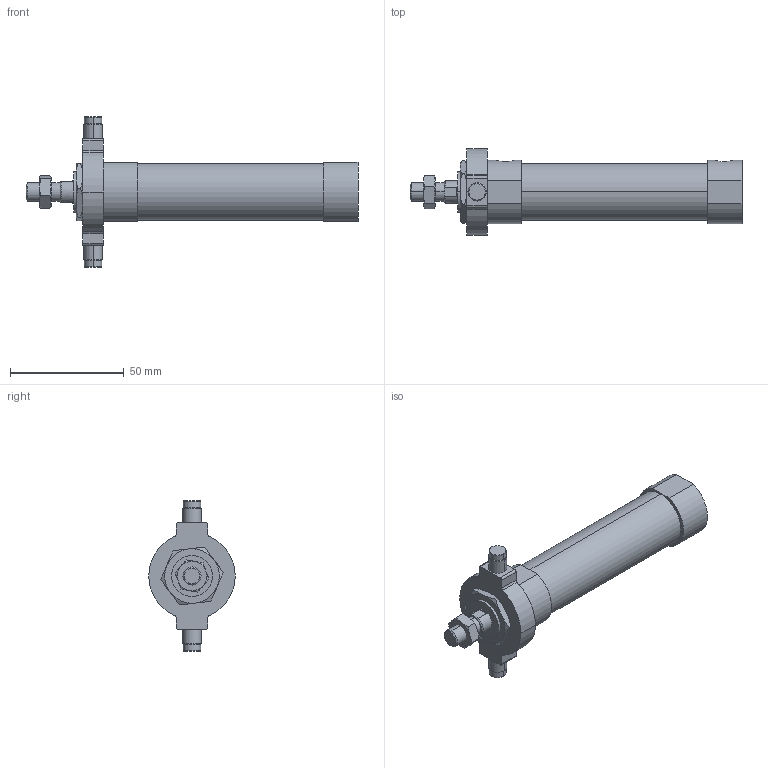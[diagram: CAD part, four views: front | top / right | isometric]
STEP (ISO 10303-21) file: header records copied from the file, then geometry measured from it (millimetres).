
FILE_DESCRIPTION (( 'STEP AP203' ), '1' );
FILE_NAME ('JGND2-20-50-T.STEP', '2016-08-04T02:23:53', ( '' ), ( '' ), 'SwSTEP 2.0', 'SolidWorks 2014', '' );
FILE_SCHEMA (( 'CONFIG_CONTROL_DESIGN' ));
Length unit declared in the file: millimetre
Products named in the file (5): J#2-20-50(P); JGND2-20-50-T; J#2-20-T
Assembly tree (4 placements, depth 2):
  JGND2-20-50-T
    J#2-20-50(P)
    (unnamed)
    (unnamed)
    J#2-20-T
Bounding box: 146 x 38 x 66 mm (x, y, z)
Volume: 72530.3 mm3; surface area: 18200.8 mm2
Topology: 4 solids, 4 shells, 123 faces, 275 edges, 170 vertices
Faces by surface type: plane 44, cylinder 43, torus 24, cone 12
Entity records: 4286 total; most frequent: CARTESIAN_POINT 1031, DIRECTION 597, ORIENTED_EDGE 550, EDGE_CURVE 275, AXIS2_PLACEMENT_3D 248, VERTEX_POINT 170, EDGE_LOOP 139, ADVANCED_FACE 123
